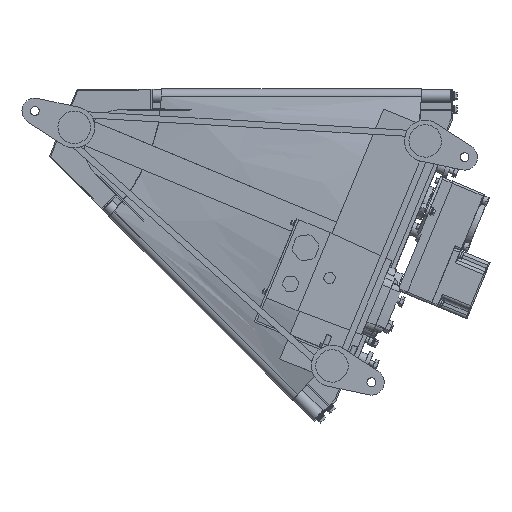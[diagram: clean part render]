
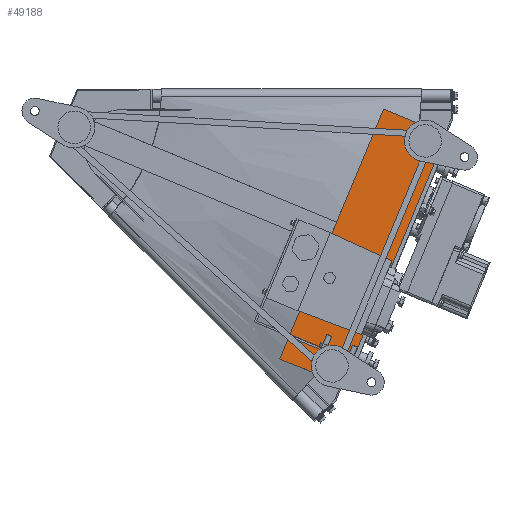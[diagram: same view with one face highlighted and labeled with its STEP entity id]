
A CAD part, front view. The second image highlights one B-rep face of the part: STEP entity #49188.
In plain terms, the highlighted planar face has unit normal (0, -1, 0).
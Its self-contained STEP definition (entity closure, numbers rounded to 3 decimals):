
#2566 = CARTESIAN_POINT ( 'NONE',  ( 535.982, -167.5, -427.665 ) ) ;
#2576 = VERTEX_POINT ( 'NONE', #48178 ) ;
#2624 = LINE ( 'NONE', #49139, #17438 ) ;
#2928 = DIRECTION ( 'NONE',  ( -0.383, 0., -0.924 ) ) ;
#3602 = DIRECTION ( 'NONE',  ( 0.383, 0., 0.924 ) ) ;
#6573 = DIRECTION ( 'NONE',  ( -0.924, 0., -0.383 ) ) ;
#14055 = VECTOR ( 'NONE', #48593, 1000. ) ;
#15181 = DIRECTION ( 'NONE',  ( -0.924, 0., 0.383 ) ) ;
#15432 = LINE ( 'NONE', #56637, #14055 ) ;
#15745 = EDGE_CURVE ( 'NONE', #19639, #22541, #2624, .T. ) ;
#16901 = ORIENTED_EDGE ( 'NONE', *, *, #52455, .F. ) ;
#17438 = VECTOR ( 'NONE', #2928, 1000. ) ;
#18030 = EDGE_LOOP ( 'NONE', ( #42664, #16901, #33867, #34340, #55849, #51992 ) ) ;
#19639 = VERTEX_POINT ( 'NONE', #42815 ) ;
#19651 = DIRECTION ( 'NONE',  ( 0.078, 0., 0.997 ) ) ;
#21279 = AXIS2_PLACEMENT_3D ( 'NONE', #22840, #32503, #19651 ) ;
#21840 = LINE ( 'NONE', #31024, #54227 ) ;
#22541 = VERTEX_POINT ( 'NONE', #2566 ) ;
#22840 = CARTESIAN_POINT ( 'NONE',  ( 83.928, -167.5, -34.764 ) ) ;
#22939 = VECTOR ( 'NONE', #42329, 1000. ) ;
#24839 = EDGE_CURVE ( 'NONE', #41902, #19639, #44876, .T. ) ;
#26427 = FACE_OUTER_BOUND ( 'NONE', #18030, .T. ) ;
#28965 = VECTOR ( 'NONE', #6573, 1000. ) ;
#29094 = CARTESIAN_POINT ( 'NONE',  ( 522.916, -167.5, -433.077 ) ) ;
#31024 = CARTESIAN_POINT ( 'NONE',  ( 439.767, -167.5, -398.636 ) ) ;
#31110 = VERTEX_POINT ( 'NONE', #57079 ) ;
#31761 = PLANE ( 'NONE',  #21279 ) ;
#32503 = DIRECTION ( 'NONE',  ( 0., 1., 0. ) ) ;
#33867 = ORIENTED_EDGE ( 'NONE', *, *, #44839, .F. ) ;
#34340 = ORIENTED_EDGE ( 'NONE', *, *, #36445, .F. ) ;
#35794 = CARTESIAN_POINT ( 'NONE',  ( 439.767, -167.5, -398.636 ) ) ;
#36445 = EDGE_CURVE ( 'NONE', #2576, #46163, #53753, .T. ) ;
#36904 = VECTOR ( 'NONE', #15181, 1000. ) ;
#37207 = CARTESIAN_POINT ( 'NONE',  ( 675.99, -167.5, -63.526 ) ) ;
#37777 = CARTESIAN_POINT ( 'NONE',  ( 681.402, -167.5, -76.591 ) ) ;
#41043 = LINE ( 'NONE', #29094, #28965 ) ;
#41902 = VERTEX_POINT ( 'NONE', #37207 ) ;
#42269 = CARTESIAN_POINT ( 'NONE',  ( 439.767, -167.5, -398.636 ) ) ;
#42329 = DIRECTION ( 'NONE',  ( 0.383, 0., -0.924 ) ) ;
#42664 = ORIENTED_EDGE ( 'NONE', *, *, #24839, .F. ) ;
#42815 = CARTESIAN_POINT ( 'NONE',  ( 681.402, -167.5, -76.591 ) ) ;
#44839 = EDGE_CURVE ( 'NONE', #46163, #31110, #21840, .T. ) ;
#44876 = LINE ( 'NONE', #37777, #22939 ) ;
#46163 = VERTEX_POINT ( 'NONE', #35794 ) ;
#48178 = CARTESIAN_POINT ( 'NONE',  ( 522.916, -167.5, -433.077 ) ) ;
#48593 = DIRECTION ( 'NONE',  ( 0.924, 0., -0.383 ) ) ;
#49139 = CARTESIAN_POINT ( 'NONE',  ( 535.982, -167.5, -427.665 ) ) ;
#49188 = ADVANCED_FACE ( 'NONE', ( #26427 ), #31761, .F. ) ;
#51992 = ORIENTED_EDGE ( 'NONE', *, *, #15745, .F. ) ;
#52455 = EDGE_CURVE ( 'NONE', #31110, #41902, #15432, .T. ) ;
#53753 = LINE ( 'NONE', #42269, #36904 ) ;
#54227 = VECTOR ( 'NONE', #3602, 1000. ) ;
#55849 = ORIENTED_EDGE ( 'NONE', *, *, #57571, .F. ) ;
#56637 = CARTESIAN_POINT ( 'NONE',  ( 592.84, -167.5, -29.084 ) ) ;
#57079 = CARTESIAN_POINT ( 'NONE',  ( 592.84, -167.5, -29.084 ) ) ;
#57571 = EDGE_CURVE ( 'NONE', #22541, #2576, #41043, .T. ) ;
